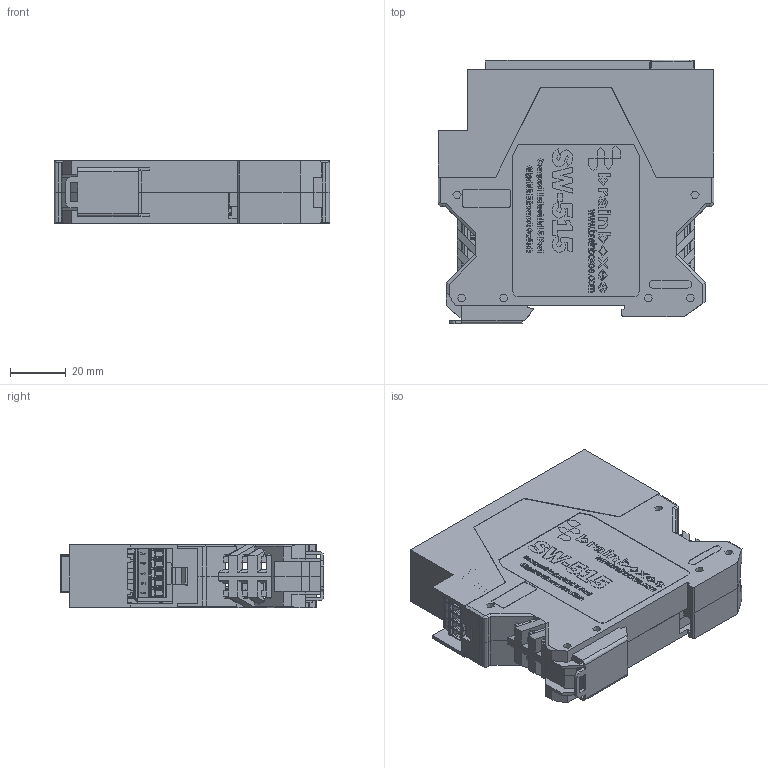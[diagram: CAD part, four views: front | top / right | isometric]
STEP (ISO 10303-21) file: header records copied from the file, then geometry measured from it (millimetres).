
FILE_DESCRIPTION(('FreeCAD Model'),'2;1');
FILE_NAME('Open CASCADE Shape Model','2023-03-16T12:52:12',('Author'),( ''),'Open CASCADE STEP processor 7.6','FreeCAD','Unknown');
FILE_SCHEMA(('AUTOMOTIVE_DESIGN { 1 0 10303 214 1 1 1 1 }'));
Products named in the file (1): For Colour SW-515
Bounding box: 99 x 94.53 x 22.8 mm (x, y, z)
Volume: 68585 mm3; surface area: 104059 mm2
Topology: 222 solids, 242 shells, 12037 faces, 34539 edges, 22583 vertices
Faces by surface type: plane 10168, cylinder 1228, bspline 554, cone 38, torus 33, sphere 12, revolution 4
Full cylindrical faces by diameter (mm): 3.81 x1
Entity records: 481870 total; most frequent: CARTESIAN_POINT 80641, ORIENTED_EDGE 69052, DIRECTION 59897, EDGE_CURVE 34526, LINE 30535, VECTOR 30535, VERTEX_POINT 22583, AXIS2_PLACEMENT_3D 14679
